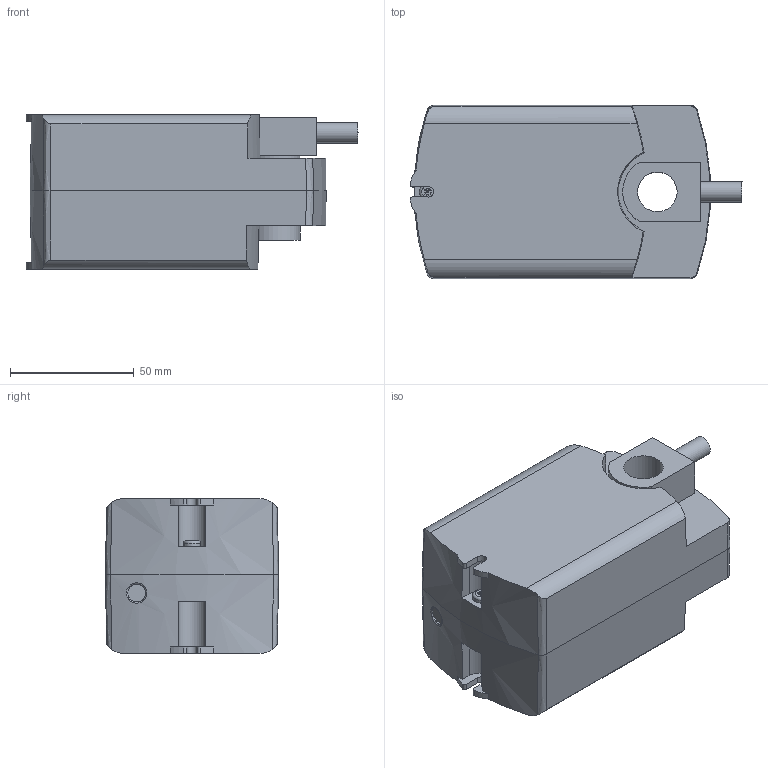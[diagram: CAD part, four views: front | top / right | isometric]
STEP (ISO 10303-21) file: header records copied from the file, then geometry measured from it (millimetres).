
FILE_DESCRIPTION(/* description */ (''),/* implementation_level */ '2;1');
FILE_NAME(/* name */ 'GQD..1A.stp',/* time_stamp */ '2014-09-15T15:01:42+02:00',/* author */ (''),/* organization */ (''),/* preprocessor_version */ 'ST-DEVELOPER v15',/* originating_system */ 'SIEMENS PLM Software NX 8.5',/* authorisation */ '');
FILE_SCHEMA (('AUTOMOTIVE_DESIGN { 1 0 10303 214 3 1 1 1 }'));
Length unit declared in the file: millimetre
Products named in the file (1): 8000077505_02
Bounding box: 134.15 x 69.98 x 62.52 mm (x, y, z)
Volume: 427694.6 mm3; surface area: 41970.1 mm2
Topology: 1 solids, 1 shells, 101 faces, 262 edges, 171 vertices
Faces by surface type: plane 46, cylinder 31, bspline 12, cone 10, torus 2
Full cylindrical faces by diameter (mm): 0.8 x1, 6.9 x1, 8.2 x1, 16 x3, 21.57 x2
Entity records: 4212 total; most frequent: CARTESIAN_POINT 1150, ORIENTED_EDGE 498, DIRECTION 450, EDGE_CURVE 249, AXIS2_PLACEMENT_3D 172, VERTEX_POINT 168, EDGE_LOOP 121, LINE 106
